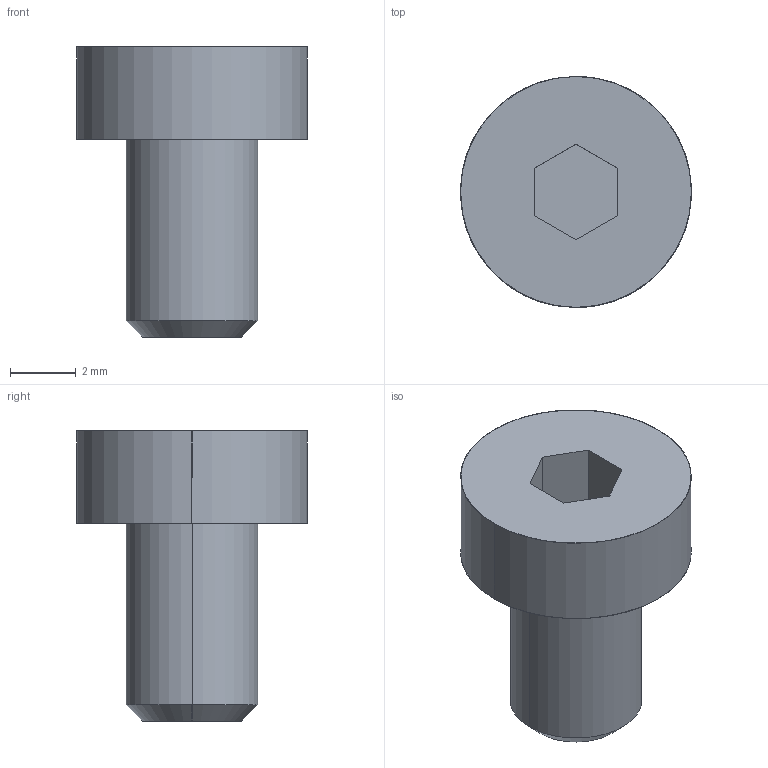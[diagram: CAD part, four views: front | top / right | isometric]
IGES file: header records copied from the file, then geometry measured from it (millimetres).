
Global section: file name: E:\UnigraphicsGraphicData\MISUMI_PRESS-PARTS\IGES\3d_cbs4-6_00450_r00.igs; native system: NX V5.0; preprocessor: UGS NX IGES V5.0; author: MISUMI; date: 20110105.160200; units: millimetre
Bounding box: 7 x 7 x 8.8 mm (x, y, z)
Surface area: 230.1 mm2 (no closed solid volume)
Topology: 0 solids, 0 shells, 16 faces, 92 edges, 92 vertices
Faces by surface type: bspline 16
